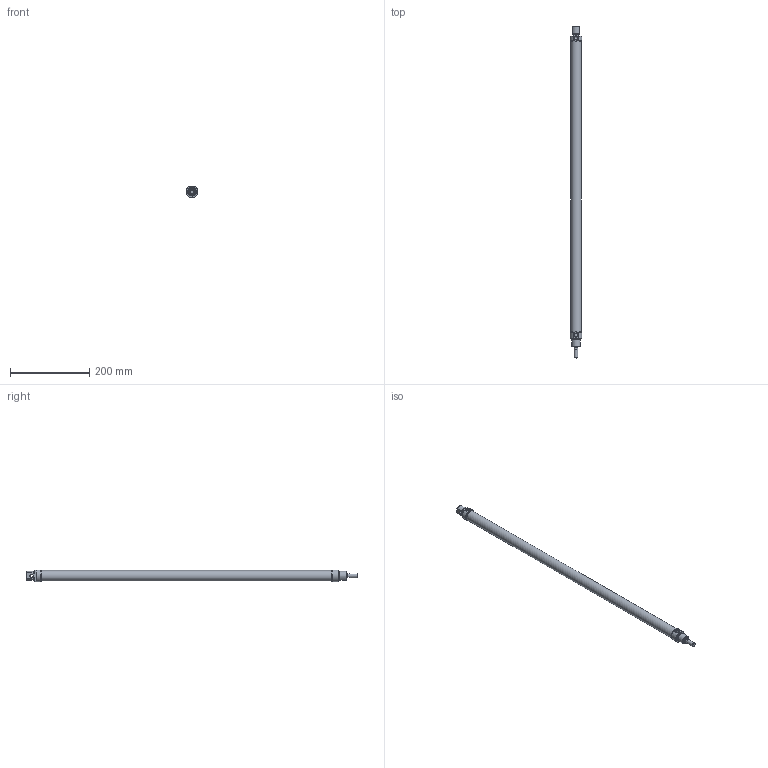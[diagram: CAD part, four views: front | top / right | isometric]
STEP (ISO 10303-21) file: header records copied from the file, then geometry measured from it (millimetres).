
FILE_DESCRIPTION((''),'2;1');
FILE_NAME('T:\Archivio Inventor\- 00 NUOVI STP PER SITO CON STELO CHE SI MUOVE\SERIE O\ODM\ODM025.---.GS.M\ODM025.700.GS.M.stp','2017-06-12T16:04:14',('carlo.corazza'),(''),'Autodesk Inventor 2013','Autodesk Inventor 2013','');
FILE_SCHEMA(('AUTOMOTIVE_DESIGN { 1 0 10303 214 1 1 1 1 }'));
Length unit declared in the file: millimetre
Products named in the file (5): ODM025..GS.M; CORPO-700; STELO-700; TA; TP
Assembly tree (4 placements, depth 2):
  ODM025..GS.M
    CORPO-700
    STELO-700
    TA
    TP
Bounding box: 30 x 840 x 28.45 mm (x, y, z)
Volume: 140557 mm3; surface area: 154407.3 mm2
Topology: 4 solids, 4 shells, 98 faces, 202 edges, 127 vertices
Faces by surface type: plane 38, cylinder 28, cone 24, torus 8
Full cylindrical faces by diameter (mm): 8 x2, 8.566 x2, 9.9 x1, 10 x1, 10.5 x1, 11.1 x1, 14 x1, 14.1 x1, 16.1 x1, 16.2 x1, 19.7 x1, 22 x2, 25 x1, 26.5 x1, 27 x2
Entity records: 2537 total; most frequent: DIRECTION 442, CARTESIAN_POINT 420, ORIENTED_EDGE 292, AXIS2_PLACEMENT_3D 198, EDGE_LOOP 164, EDGE_CURVE 146, VERTEX_POINT 118, FACE_OUTER_BOUND 98
